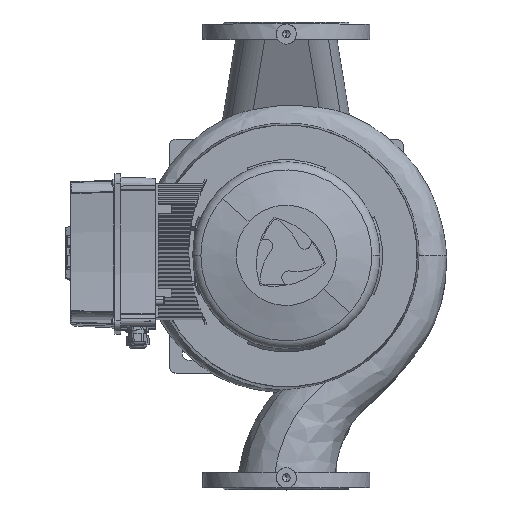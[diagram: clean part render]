
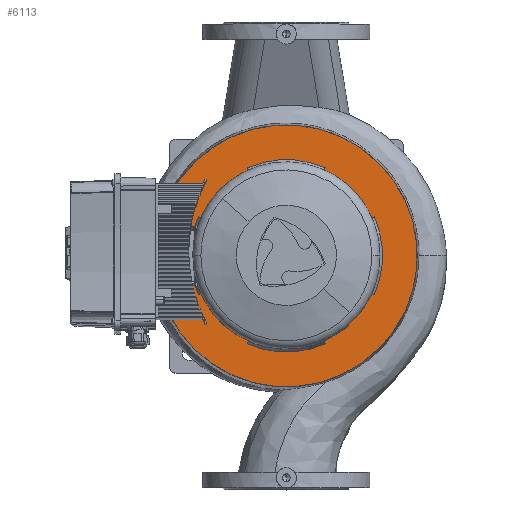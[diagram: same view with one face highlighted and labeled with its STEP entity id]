
A CAD part, top view. The second image highlights one B-rep face of the part: STEP entity #6113.
In plain terms, the highlighted planar face has unit normal (0, 0, 1) as drawn and (1, 0, 0) by its records, which use the part's own axes.
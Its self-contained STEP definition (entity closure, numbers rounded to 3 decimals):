
#6113=ADVANCED_FACE('',(#15561,#15562),#15563,.T.);
#6137=EDGE_CURVE('',#15602,#15603,#15604,.T.);
#6161=EDGE_CURVE('',#15646,#15647,#15648,.T.);
#6169=EDGE_CURVE('',#15656,#15659,#15660,.T.);
#6177=EDGE_CURVE('',#15668,#15671,#15672,.T.);
#6183=EDGE_CURVE('',#15675,#15647,#15680,.T.);
#6185=EDGE_CURVE('',#15682,#15659,#15683,.T.);
#6193=EDGE_CURVE('',#15694,#15690,#15695,.T.);
#6201=EDGE_CURVE('',#15705,#15701,#15706,.T.);
#6209=EDGE_CURVE('',#15712,#15715,#15716,.T.);
#6219=EDGE_CURVE('',#15726,#15656,#15729,.T.);
#6225=EDGE_CURVE('',#15734,#15668,#15737,.T.);
#6233=EDGE_CURVE('',#15745,#15740,#15748,.T.);
#6235=EDGE_CURVE('',#15671,#15690,#15750,.T.);
#6239=EDGE_CURVE('',#15740,#15701,#15754,.T.);
#6243=EDGE_CURVE('',#15715,#15646,#15758,.T.);
#6247=EDGE_CURVE('',#15682,#15734,#15762,.T.);
#6251=EDGE_CURVE('',#15694,#15745,#15766,.T.);
#6253=EDGE_CURVE('',#15675,#15726,#15768,.T.);
#6257=EDGE_CURVE('',#15603,#15602,#15772,.T.);
#6259=EDGE_CURVE('',#15705,#15712,#15774,.T.);
#15561=FACE_OUTER_BOUND('',#28545,.T.);
#15562=FACE_BOUND('',#28546,.T.);
#15563=PLANE('',#28547);
#15602=VERTEX_POINT('',#28588);
#15603=VERTEX_POINT('',#28589);
#15604=CIRCLE('',#28590,196.0);
#15646=VERTEX_POINT('',#28644);
#15647=VERTEX_POINT('',#28645);
#15648=CIRCLE('',#28646,132.799);
#15656=VERTEX_POINT('',#28666);
#15659=VERTEX_POINT('',#28679);
#15660=CIRCLE('',#28680,132.799);
#15668=VERTEX_POINT('',#28700);
#15671=VERTEX_POINT('',#28713);
#15672=CIRCLE('',#28714,132.799);
#15675=VERTEX_POINT('',#28718);
#15680=LINE('',#28735,#28736);
#15682=VERTEX_POINT('',#28739);
#15683=LINE('',#28740,#28741);
#15690=VERTEX_POINT('',#28761);
#15694=VERTEX_POINT('',#28775);
#15695=LINE('',#28776,#28777);
#15701=VERTEX_POINT('',#28796);
#15705=VERTEX_POINT('',#28810);
#15706=LINE('',#28811,#28812);
#15712=VERTEX_POINT('',#28831);
#15715=VERTEX_POINT('',#28844);
#15716=LINE('',#28845,#28846);
#15726=VERTEX_POINT('',#28871);
#15729=LINE('',#28884,#28885);
#15734=VERTEX_POINT('',#28893);
#15737=LINE('',#28906,#28907);
#15740=VERTEX_POINT('',#28911);
#15745=VERTEX_POINT('',#28928);
#15748=LINE('',#28941,#28942);
#15750=CIRCLE('',#28945,132.799);
#15754=CIRCLE('',#28951,132.799);
#15758=CIRCLE('',#28957,132.799);
#15762=CIRCLE('',#28963,144.0);
#15766=CIRCLE('',#28969,144.0);
#15768=CIRCLE('',#28972,144.0);
#15772=CIRCLE('',#28978,196.0);
#15774=CIRCLE('',#28981,144.0);
#28545=EDGE_LOOP('',(#54751,#54752));
#28546=EDGE_LOOP('',(#54753,#54754,#54755,#54756,#54757,#54758,#54759,#54760,#54761,#54762,#54763,#54764,#54765,#54766,#54767,#54768,#54769,#54770));
#28547=AXIS2_PLACEMENT_3D('',#54771,#54772,#54773);
#28588=CARTESIAN_POINT('',(20.0,196.0,0.0));
#28589=CARTESIAN_POINT('',(20.0,-196.0,0.));
#28590=AXIS2_PLACEMENT_3D('',#54873,#54874,#54875);
#28644=CARTESIAN_POINT('',(20.0,-132.799,0.));
#28645=CARTESIAN_POINT('',(20.0,-123.51,-48.794));
#28646=AXIS2_PLACEMENT_3D('',#54909,#54910,#54911);
#28666=CARTESIAN_POINT('',(20.0,-48.794,-123.51));
#28679=CARTESIAN_POINT('',(20.0,48.794,-123.51));
#28680=AXIS2_PLACEMENT_3D('',#54915,#54916,#54917);
#28700=CARTESIAN_POINT('',(20.0,123.51,-48.794));
#28713=CARTESIAN_POINT('',(20.0,132.799,0.));
#28714=AXIS2_PLACEMENT_3D('',#54921,#54922,#54923);
#28718=CARTESIAN_POINT('',(20.0,-134.395,-51.711));
#28735=CARTESIAN_POINT('',(20.0,-134.395,-51.711));
#28736=VECTOR('',#54925,1.0);
#28739=CARTESIAN_POINT('',(20.0,51.711,-134.395));
#28740=CARTESIAN_POINT('',(20.0,51.711,-134.395));
#28741=VECTOR('',#54926,1.0);
#28761=CARTESIAN_POINT('',(20.0,123.51,48.794));
#28775=CARTESIAN_POINT('',(20.0,134.395,51.711));
#28776=CARTESIAN_POINT('',(20.0,134.395,51.711));
#28777=VECTOR('',#54928,1.0);
#28796=CARTESIAN_POINT('',(20.0,-48.794,123.51));
#28810=CARTESIAN_POINT('',(20.0,-51.711,134.395));
#28811=CARTESIAN_POINT('',(20.0,-51.711,134.395));
#28812=VECTOR('',#54930,1.0);
#28831=CARTESIAN_POINT('',(20.0,-134.395,51.711));
#28844=CARTESIAN_POINT('',(20.0,-123.51,48.794));
#28845=CARTESIAN_POINT('',(20.0,-134.395,51.711));
#28846=VECTOR('',#54932,1.0);
#28871=CARTESIAN_POINT('',(20.0,-51.711,-134.395));
#28884=CARTESIAN_POINT('',(20.0,-51.711,-134.395));
#28885=VECTOR('',#54935,1.0);
#28893=CARTESIAN_POINT('',(20.0,134.395,-51.711));
#28906=CARTESIAN_POINT('',(20.0,134.395,-51.711));
#28907=VECTOR('',#54937,1.0);
#28911=CARTESIAN_POINT('',(20.0,48.794,123.51));
#28928=CARTESIAN_POINT('',(20.0,51.711,134.395));
#28941=CARTESIAN_POINT('',(20.0,51.711,134.395));
#28942=VECTOR('',#54939,1.0);
#28945=AXIS2_PLACEMENT_3D('',#54940,#54941,#54942);
#28951=AXIS2_PLACEMENT_3D('',#54946,#54947,#54948);
#28957=AXIS2_PLACEMENT_3D('',#54952,#54953,#54954);
#28963=AXIS2_PLACEMENT_3D('',#54958,#54959,#54960);
#28969=AXIS2_PLACEMENT_3D('',#54964,#54965,#54966);
#28972=AXIS2_PLACEMENT_3D('',#54967,#54968,#54969);
#28978=AXIS2_PLACEMENT_3D('',#54973,#54974,#54975);
#28981=AXIS2_PLACEMENT_3D('',#54976,#54977,#54978);
#54751=ORIENTED_EDGE('',*,*,#6137,.T.);
#54752=ORIENTED_EDGE('',*,*,#6257,.T.);
#54753=ORIENTED_EDGE('',*,*,#6259,.F.);
#54754=ORIENTED_EDGE('',*,*,#6201,.T.);
#54755=ORIENTED_EDGE('',*,*,#6239,.F.);
#54756=ORIENTED_EDGE('',*,*,#6233,.F.);
#54757=ORIENTED_EDGE('',*,*,#6251,.F.);
#54758=ORIENTED_EDGE('',*,*,#6193,.T.);
#54759=ORIENTED_EDGE('',*,*,#6235,.F.);
#54760=ORIENTED_EDGE('',*,*,#6177,.F.);
#54761=ORIENTED_EDGE('',*,*,#6225,.F.);
#54762=ORIENTED_EDGE('',*,*,#6247,.F.);
#54763=ORIENTED_EDGE('',*,*,#6185,.T.);
#54764=ORIENTED_EDGE('',*,*,#6169,.F.);
#54765=ORIENTED_EDGE('',*,*,#6219,.F.);
#54766=ORIENTED_EDGE('',*,*,#6253,.F.);
#54767=ORIENTED_EDGE('',*,*,#6183,.T.);
#54768=ORIENTED_EDGE('',*,*,#6161,.F.);
#54769=ORIENTED_EDGE('',*,*,#6243,.F.);
#54770=ORIENTED_EDGE('',*,*,#6209,.F.);
#54771=CARTESIAN_POINT('',(20.0,170.0,0.0));
#54772=DIRECTION('',(1.0,0.0,0.0));
#54773=DIRECTION('',(0.0,0.0,-1.0));
#54873=CARTESIAN_POINT('',(20.0,0.0,0.0));
#54874=DIRECTION('',(1.0,0.0,0.0));
#54875=DIRECTION('',(0.0,1.0,0.0));
#54909=CARTESIAN_POINT('',(20.0,0.0,0.0));
#54910=DIRECTION('',(1.0,0.0,-0.0));
#54911=DIRECTION('',(0.0,1.0,0.));
#54915=CARTESIAN_POINT('',(20.0,0.0,0.0));
#54916=DIRECTION('',(1.0,0.0,-0.0));
#54917=DIRECTION('',(0.0,1.0,0.));
#54921=CARTESIAN_POINT('',(20.0,0.0,0.0));
#54922=DIRECTION('',(1.0,0.0,-0.0));
#54923=DIRECTION('',(0.0,1.0,0.));
#54925=DIRECTION('',(0.,0.966,0.259));
#54926=DIRECTION('',(0.,-0.259,0.966));
#54928=DIRECTION('',(0.,-0.966,-0.259));
#54930=DIRECTION('',(0.,0.259,-0.966));
#54932=DIRECTION('',(0.,0.966,-0.259));
#54935=DIRECTION('',(0.,0.259,0.966));
#54937=DIRECTION('',(0.,-0.966,0.259));
#54939=DIRECTION('',(0.,-0.259,-0.966));
#54940=CARTESIAN_POINT('',(20.0,0.0,0.0));
#54941=DIRECTION('',(1.0,0.0,-0.0));
#54942=DIRECTION('',(0.0,1.0,0.));
#54946=CARTESIAN_POINT('',(20.0,0.0,0.0));
#54947=DIRECTION('',(1.0,0.0,-0.0));
#54948=DIRECTION('',(0.0,1.0,0.));
#54952=CARTESIAN_POINT('',(20.0,0.0,0.0));
#54953=DIRECTION('',(1.0,0.0,-0.0));
#54954=DIRECTION('',(0.0,1.0,0.));
#54958=CARTESIAN_POINT('',(20.0,0.0,0.0));
#54959=DIRECTION('',(1.0,0.0,0.0));
#54960=DIRECTION('',(0.0,1.0,0.0));
#54964=CARTESIAN_POINT('',(20.0,0.0,0.0));
#54965=DIRECTION('',(1.0,0.0,0.0));
#54966=DIRECTION('',(0.0,1.0,0.0));
#54967=CARTESIAN_POINT('',(20.0,0.0,0.0));
#54968=DIRECTION('',(1.0,0.0,0.0));
#54969=DIRECTION('',(0.0,1.0,0.0));
#54973=CARTESIAN_POINT('',(20.0,0.0,0.0));
#54974=DIRECTION('',(1.0,0.0,0.0));
#54975=DIRECTION('',(0.0,1.0,0.0));
#54976=CARTESIAN_POINT('',(20.0,0.0,0.0));
#54977=DIRECTION('',(1.0,0.0,0.0));
#54978=DIRECTION('',(0.0,1.0,0.0));
